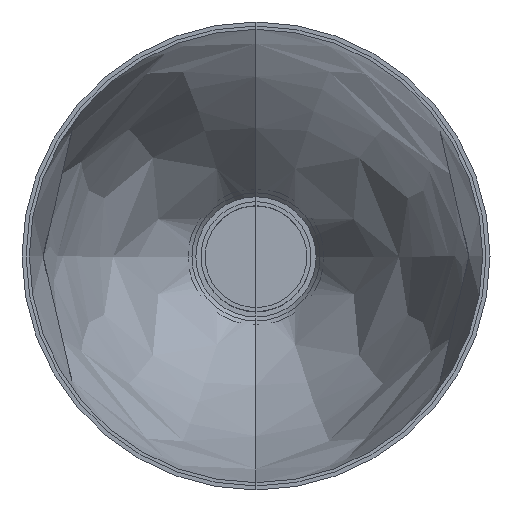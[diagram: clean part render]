
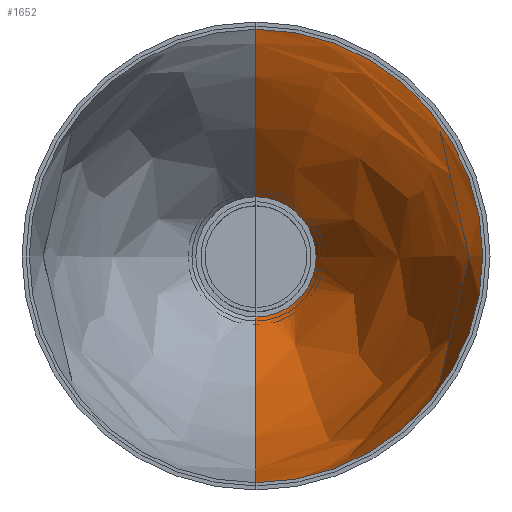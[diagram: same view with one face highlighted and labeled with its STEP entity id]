
A CAD part, top view. The second image highlights one B-rep face of the part: STEP entity #1652.
In plain terms, the highlighted free-form (B-spline) face has degree [2, 2] with [3, 5] control points.
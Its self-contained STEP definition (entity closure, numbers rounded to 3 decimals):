
#24=(
BOUNDED_SURFACE()
B_SPLINE_SURFACE(2,2,((#2963,#2964,#2965,#2966,#2967),(#2968,#2969,#2970,
#2971,#2972),(#2973,#2974,#2975,#2976,#2977)),.UNSPECIFIED.,.F.,.F.,.F.)
B_SPLINE_SURFACE_WITH_KNOTS((3,3),(3,2,3),(-0.593,-0.032),
(-1.571,0.,1.571),.UNSPECIFIED.)
GEOMETRIC_REPRESENTATION_ITEM()
RATIONAL_B_SPLINE_SURFACE(((1.,0.707,1.,0.707,1.),
(0.961,0.679,0.961,0.679,
0.961),(1.,0.707,1.,0.707,1.)))
REPRESENTATION_ITEM('')
SURFACE()
);
#214=FACE_OUTER_BOUND('',#338,.T.);
#338=EDGE_LOOP('',(#1364,#1365,#1366,#1367));
#654=CIRCLE('',#1842,14.767);
#655=CIRCLE('',#1843,240.225);
#656=CIRCLE('',#1844,55.699);
#657=CIRCLE('',#1845,240.225);
#790=VERTEX_POINT('',#2978);
#791=VERTEX_POINT('',#2979);
#792=VERTEX_POINT('',#2981);
#793=VERTEX_POINT('',#2983);
#982=EDGE_CURVE('',#790,#791,#654,.T.);
#983=EDGE_CURVE('',#792,#790,#655,.T.);
#984=EDGE_CURVE('',#793,#792,#656,.T.);
#985=EDGE_CURVE('',#791,#793,#657,.T.);
#1364=ORIENTED_EDGE('',*,*,#982,.F.);
#1365=ORIENTED_EDGE('',*,*,#983,.F.);
#1366=ORIENTED_EDGE('',*,*,#984,.F.);
#1367=ORIENTED_EDGE('',*,*,#985,.F.);
#1652=ADVANCED_FACE('',(#214),#24,.T.);
#1842=AXIS2_PLACEMENT_3D('',#2980,#2272,#2273);
#1843=AXIS2_PLACEMENT_3D('',#2982,#2274,#2275);
#1844=AXIS2_PLACEMENT_3D('',#2984,#2276,#2277);
#1845=AXIS2_PLACEMENT_3D('',#2985,#2278,#2279);
#2272=DIRECTION('center_axis',(0.,0.,
1.));
#2273=DIRECTION('ref_axis',(1.,0.,0.));
#2274=DIRECTION('center_axis',(1.,0.,0.));
#2275=DIRECTION('ref_axis',(0.,-1.,0.));
#2276=DIRECTION('center_axis',(0.,0.,
-1.));
#2277=DIRECTION('ref_axis',(1.,0.,0.));
#2278=DIRECTION('center_axis',(1.,0.,0.));
#2279=DIRECTION('ref_axis',(0.,1.,0.));
#2963=CARTESIAN_POINT('Ctrl Pts',(0.,-14.767,
111.121));
#2964=CARTESIAN_POINT('Ctrl Pts',(14.767,-14.767,111.121));
#2965=CARTESIAN_POINT('Ctrl Pts',(14.767,0.,
111.121));
#2966=CARTESIAN_POINT('Ctrl Pts',(14.767,14.767,111.121));
#2967=CARTESIAN_POINT('Ctrl Pts',(0.,14.767,
111.121));
#2968=CARTESIAN_POINT('Ctrl Pts',(0.,-53.505,
168.568));
#2969=CARTESIAN_POINT('Ctrl Pts',(53.505,-53.505,168.568));
#2970=CARTESIAN_POINT('Ctrl Pts',(53.505,0.,
168.568));
#2971=CARTESIAN_POINT('Ctrl Pts',(53.505,53.505,168.568));
#2972=CARTESIAN_POINT('Ctrl Pts',(0.,53.505,
168.568));
#2973=CARTESIAN_POINT('Ctrl Pts',(0.,-55.699,
237.821));
#2974=CARTESIAN_POINT('Ctrl Pts',(55.699,-55.699,237.821));
#2975=CARTESIAN_POINT('Ctrl Pts',(55.699,0.,
237.821));
#2976=CARTESIAN_POINT('Ctrl Pts',(55.699,55.699,237.821));
#2977=CARTESIAN_POINT('Ctrl Pts',(0.,55.699,
237.821));
#2978=CARTESIAN_POINT('',(0.,-14.767,111.121));
#2979=CARTESIAN_POINT('',(0.,14.767,111.121));
#2980=CARTESIAN_POINT('Origin',(0.,0.,
111.121));
#2981=CARTESIAN_POINT('',(0.,-55.699,237.821));
#2982=CARTESIAN_POINT('Origin',(0.,184.405,245.428));
#2983=CARTESIAN_POINT('',(0.,55.699,237.821));
#2984=CARTESIAN_POINT('Origin',(0.,0.,
237.821));
#2985=CARTESIAN_POINT('Origin',(0.,-184.405,245.428));
